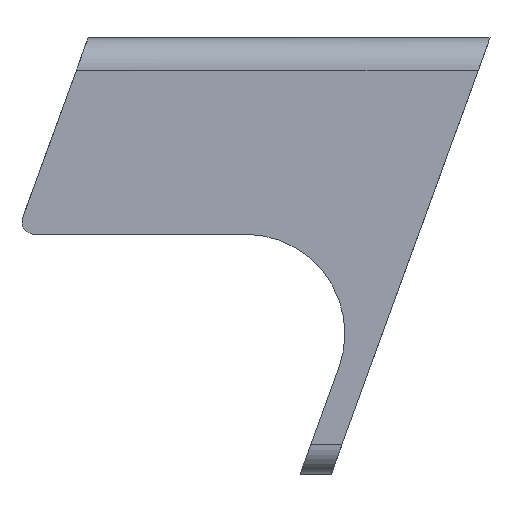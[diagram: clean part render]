
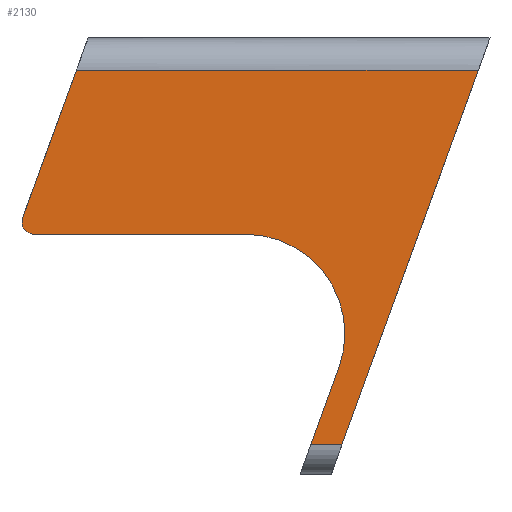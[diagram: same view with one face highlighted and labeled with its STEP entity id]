
A CAD part, front view. The second image highlights one B-rep face of the part: STEP entity #2130.
In plain terms, the highlighted planar face has unit normal (0, -1, 0).
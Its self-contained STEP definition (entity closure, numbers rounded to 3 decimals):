
#178 = ORIENTED_EDGE ( 'NONE', *, *, #4505, .T. ) ;
#215 = DIRECTION ( 'NONE',  ( 0., 1., 0. ) ) ;
#277 = CARTESIAN_POINT ( 'NONE',  ( 91., -2.2, -33.395 ) ) ;
#278 = LINE ( 'NONE', #1336, #3302 ) ;
#458 = EDGE_CURVE ( 'NONE', #2412, #3391, #278, .T. ) ;
#504 = VECTOR ( 'NONE', #1367, 1000. ) ;
#597 = VECTOR ( 'NONE', #1425, 1000. ) ;
#611 = CARTESIAN_POINT ( 'NONE',  ( 130.35, -2.2, -8.995 ) ) ;
#806 = CARTESIAN_POINT ( 'NONE',  ( 120.015, -2.2, -14.195 ) ) ;
#820 = VERTEX_POINT ( 'NONE', #4005 ) ;
#891 = VERTEX_POINT ( 'NONE', #2428 ) ;
#905 = LINE ( 'NONE', #806, #4058 ) ;
#960 = DIRECTION ( 'NONE',  ( 0., 1., 0. ) ) ;
#1039 = CARTESIAN_POINT ( 'NONE',  ( 130.35, -2.2, 9. ) ) ;
#1163 = EDGE_CURVE ( 'NONE', #2581, #4481, #4389, .T. ) ;
#1208 = DIRECTION ( 'NONE',  ( 0.342, 0., 0.94 ) ) ;
#1336 = CARTESIAN_POINT ( 'NONE',  ( 101.517, -2.2, -51.281 ) ) ;
#1351 = LINE ( 'NONE', #4187, #2999 ) ;
#1367 = DIRECTION ( 'NONE',  ( -1., 0., 0. ) ) ;
#1372 = ORIENTED_EDGE ( 'NONE', *, *, #2977, .T. ) ;
#1425 = DIRECTION ( 'NONE',  ( 1., 0., 0. ) ) ;
#1637 = EDGE_LOOP ( 'NONE', ( #1813, #3691, #178, #1372, #3903, #2552, #2286, #3705 ) ) ;
#1668 = AXIS2_PLACEMENT_3D ( 'NONE', #277, #215, #3425 ) ;
#1756 = EDGE_CURVE ( 'NONE', #891, #2412, #1351, .T. ) ;
#1768 = CARTESIAN_POINT ( 'NONE',  ( 42.403, -2.2, -17.395 ) ) ;
#1813 = ORIENTED_EDGE ( 'NONE', *, *, #2017, .F. ) ;
#1827 = VERTEX_POINT ( 'NONE', #4221 ) ;
#1912 = CARTESIAN_POINT ( 'NONE',  ( 57.042, -2.2, -15.395 ) ) ;
#2017 = EDGE_CURVE ( 'NONE', #2581, #820, #4110, .T. ) ;
#2114 = VECTOR ( 'NONE', #1208, 1000. ) ;
#2130 = ADVANCED_FACE ( 'NONE', ( #3858 ), #2721, .F. ) ;
#2160 = DIRECTION ( 'NONE',  ( -0.342, 0., -0.94 ) ) ;
#2246 = AXIS2_PLACEMENT_3D ( 'NONE', #1912, #3323, #3275 ) ;
#2261 = VERTEX_POINT ( 'NONE', #2466 ) ;
#2286 = ORIENTED_EDGE ( 'NONE', *, *, #2389, .F. ) ;
#2389 = EDGE_CURVE ( 'NONE', #1827, #3391, #905, .T. ) ;
#2412 = VERTEX_POINT ( 'NONE', #3663 ) ;
#2427 = LINE ( 'NONE', #1039, #504 ) ;
#2428 = CARTESIAN_POINT ( 'NONE',  ( 106.035, -2.2, -38.867 ) ) ;
#2466 = CARTESIAN_POINT ( 'NONE',  ( 91., -2.2, -17.395 ) ) ;
#2528 = LINE ( 'NONE', #1768, #597 ) ;
#2552 = ORIENTED_EDGE ( 'NONE', *, *, #458, .T. ) ;
#2581 = VERTEX_POINT ( 'NONE', #4032 ) ;
#2702 = DIRECTION ( 'NONE',  ( 0., 0., 1. ) ) ;
#2721 = PLANE ( 'NONE',  #4056 ) ;
#2768 = CARTESIAN_POINT ( 'NONE',  ( 57.042, -2.2, -17.395 ) ) ;
#2769 = CIRCLE ( 'NONE', #1668, 16. ) ;
#2920 = CARTESIAN_POINT ( 'NONE',  ( 106.517, -2.2, -51.281 ) ) ;
#2977 = EDGE_CURVE ( 'NONE', #2261, #891, #2769, .T. ) ;
#2999 = VECTOR ( 'NONE', #3561, 1000. ) ;
#3275 = DIRECTION ( 'NONE',  ( 0., 0., 1. ) ) ;
#3302 = VECTOR ( 'NONE', #3732, 1000. ) ;
#3323 = DIRECTION ( 'NONE',  ( 0., -1., 0. ) ) ;
#3391 = VERTEX_POINT ( 'NONE', #2920 ) ;
#3425 = DIRECTION ( 'NONE',  ( 0., 0., 1. ) ) ;
#3561 = DIRECTION ( 'NONE',  ( -0.342, 0., -0.94 ) ) ;
#3586 = EDGE_CURVE ( 'NONE', #1827, #820, #2427, .T. ) ;
#3663 = CARTESIAN_POINT ( 'NONE',  ( 101.517, -2.2, -51.281 ) ) ;
#3673 = CARTESIAN_POINT ( 'NONE',  ( 65.685, -2.2, 14.2 ) ) ;
#3691 = ORIENTED_EDGE ( 'NONE', *, *, #1163, .T. ) ;
#3705 = ORIENTED_EDGE ( 'NONE', *, *, #3586, .T. ) ;
#3732 = DIRECTION ( 'NONE',  ( 1., 0., 0. ) ) ;
#3858 = FACE_OUTER_BOUND ( 'NONE', #1637, .T. ) ;
#3903 = ORIENTED_EDGE ( 'NONE', *, *, #1756, .T. ) ;
#4005 = CARTESIAN_POINT ( 'NONE',  ( 63.792, -2.2, 9. ) ) ;
#4032 = CARTESIAN_POINT ( 'NONE',  ( 55.162, -2.2, -14.711 ) ) ;
#4056 = AXIS2_PLACEMENT_3D ( 'NONE', #611, #960, #2702 ) ;
#4058 = VECTOR ( 'NONE', #2160, 1000. ) ;
#4110 = LINE ( 'NONE', #3673, #2114 ) ;
#4187 = CARTESIAN_POINT ( 'NONE',  ( 101.517, -2.2, -51.281 ) ) ;
#4221 = CARTESIAN_POINT ( 'NONE',  ( 128.457, -2.2, 9. ) ) ;
#4389 = CIRCLE ( 'NONE', #2246, 2. ) ;
#4481 = VERTEX_POINT ( 'NONE', #2768 ) ;
#4505 = EDGE_CURVE ( 'NONE', #4481, #2261, #2528, .T. ) ;
